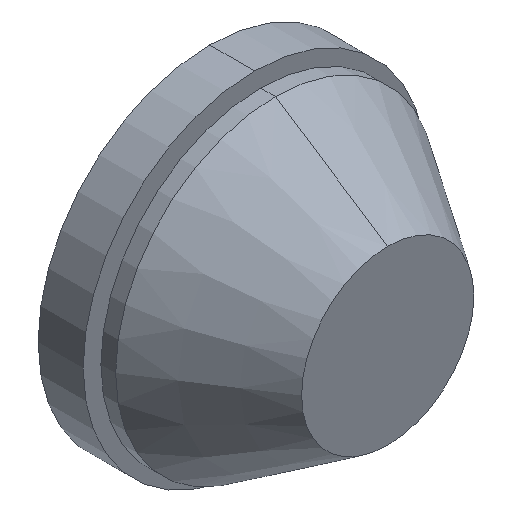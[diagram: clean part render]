
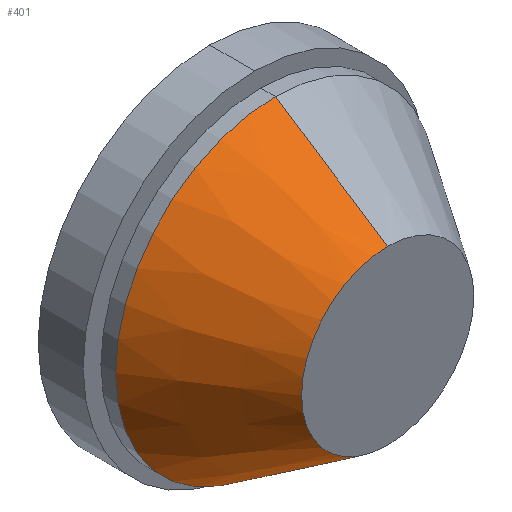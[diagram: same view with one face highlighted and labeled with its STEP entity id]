
A CAD part, isometric view. The second image highlights one B-rep face of the part: STEP entity #401.
In plain terms, the highlighted conical face has half-angle 33.212 degrees and reference radius 14.561 mm.
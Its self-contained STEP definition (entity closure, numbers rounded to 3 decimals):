
#3 = LINE ( 'NONE', #245, #4 ) ;
#4 = VECTOR ( 'NONE', #235, 1000. ) ;
#29 = LINE ( 'NONE', #116, #32 ) ;
#31 = CIRCLE ( 'NONE', #335, 27. ) ;
#32 = VECTOR ( 'NONE', #117, 1000. ) ;
#43 = FACE_OUTER_BOUND ( 'NONE', #286, .T. ) ;
#50 = CONICAL_SURFACE ( 'NONE', #327, 14.561, 0.58 ) ;
#104 = CIRCLE ( 'NONE', #350, 14.561 ) ;
#116 = CARTESIAN_POINT ( 'NONE',  ( 0., 0., -14.561 ) ) ;
#117 = DIRECTION ( 'NONE',  ( 0., 0.837, -0.548 ) ) ;
#118 = CARTESIAN_POINT ( 'NONE',  ( 0., 0., 14.561 ) ) ;
#120 = CARTESIAN_POINT ( 'NONE',  ( 0., 19., 0. ) ) ;
#121 = DIRECTION ( 'NONE',  ( 0., -1., 0. ) ) ;
#122 = DIRECTION ( 'NONE',  ( 0., 0., -1. ) ) ;
#136 = CARTESIAN_POINT ( 'NONE',  ( 0., 19., 27. ) ) ;
#143 = DIRECTION ( 'NONE',  ( 0., 0., 1. ) ) ;
#148 = DIRECTION ( 'NONE',  ( 0., 1., 0. ) ) ;
#150 = CARTESIAN_POINT ( 'NONE',  ( 0., 0., 0. ) ) ;
#193 = CARTESIAN_POINT ( 'NONE',  ( 0., 0., -14.561 ) ) ;
#195 = CARTESIAN_POINT ( 'NONE',  ( 0., 19., -27. ) ) ;
#222 = DIRECTION ( 'NONE',  ( 0., 1., 0. ) ) ;
#226 = DIRECTION ( 'NONE',  ( 0., 0., 1. ) ) ;
#235 = DIRECTION ( 'NONE',  ( 0., 0.837, 0.548 ) ) ;
#245 = CARTESIAN_POINT ( 'NONE',  ( 0., 0., 14.561 ) ) ;
#255 = CARTESIAN_POINT ( 'NONE',  ( 0., 0., 0. ) ) ;
#286 = EDGE_LOOP ( 'NONE', ( #472, #465, #468, #464 ) ) ;
#316 = EDGE_CURVE ( 'NONE', #419, #393, #104, .T. ) ;
#327 = AXIS2_PLACEMENT_3D ( 'NONE', #150, #148, #143 ) ;
#335 = AXIS2_PLACEMENT_3D ( 'NONE', #120, #121, #122 ) ;
#337 = EDGE_CURVE ( 'NONE', #393, #396, #3, .T. ) ;
#350 = AXIS2_PLACEMENT_3D ( 'NONE', #255, #222, #226 ) ;
#370 = EDGE_CURVE ( 'NONE', #419, #483, #29, .T. ) ;
#371 = EDGE_CURVE ( 'NONE', #396, #483, #31, .T. ) ;
#393 = VERTEX_POINT ( 'NONE', #118 ) ;
#396 = VERTEX_POINT ( 'NONE', #136 ) ;
#401 = ADVANCED_FACE ( 'NONE', ( #43 ), #50, .T. ) ;
#419 = VERTEX_POINT ( 'NONE', #193 ) ;
#464 = ORIENTED_EDGE ( 'NONE', *, *, #371, .T. ) ;
#465 = ORIENTED_EDGE ( 'NONE', *, *, #316, .T. ) ;
#468 = ORIENTED_EDGE ( 'NONE', *, *, #337, .T. ) ;
#472 = ORIENTED_EDGE ( 'NONE', *, *, #370, .F. ) ;
#483 = VERTEX_POINT ( 'NONE', #195 ) ;
